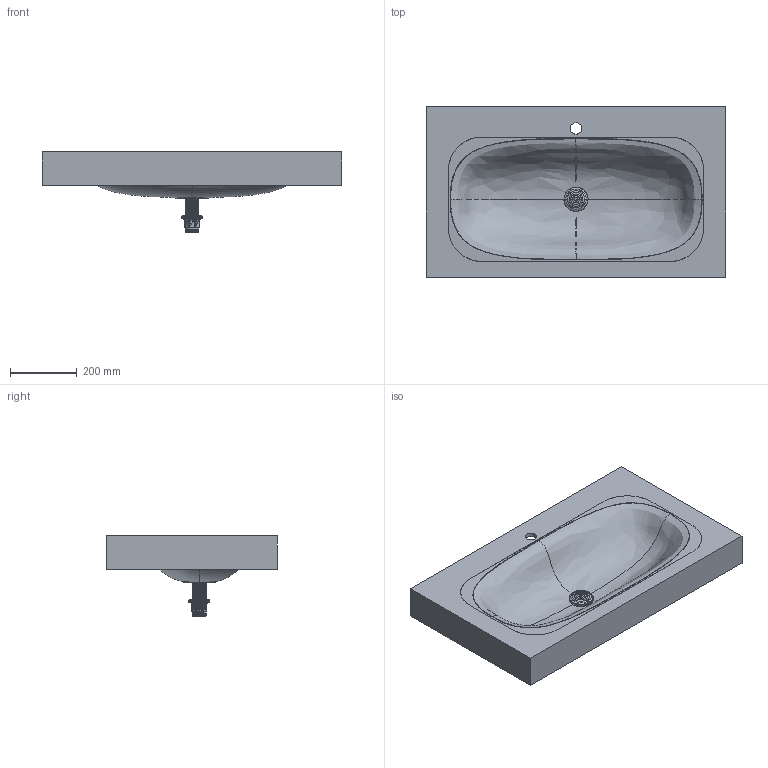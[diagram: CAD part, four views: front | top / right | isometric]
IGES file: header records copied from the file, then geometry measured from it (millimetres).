
Start section: Data from Parasolid IGES Translator 19.0.9, Copyright(c) 2006 Siemens PL M Software. All Rights Reserved.
Global section: file name: noorth-top-H 12 D 51,3 W 90_4200.igs; native system: By Siemens PLM Incorporated; preprocessor: XPlus GENERIC/IGES 19.0.9; author: Noname; organization: Noname; date: 20210914.114603; units: metre
Bounding box: 900 x 512 x 240.99 mm (x, y, z)
Volume: 4583904.8 mm3; surface area: 1621485.8 mm2
Topology: 1 solids, 1 shells, 11709 faces, 36000 edges, 35947 vertices
Faces by surface type: extrusion 11631, cylinder 29, plane 26, bspline 16, revolution 7
Full cylindrical faces by diameter (mm): 35 x1
